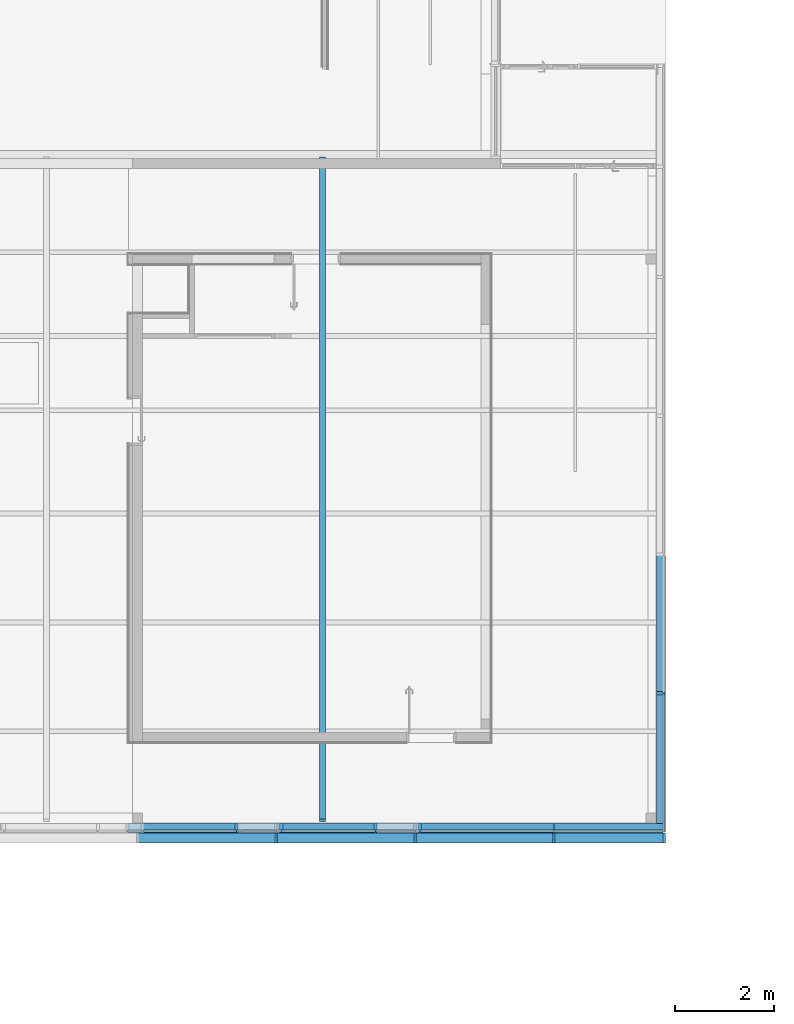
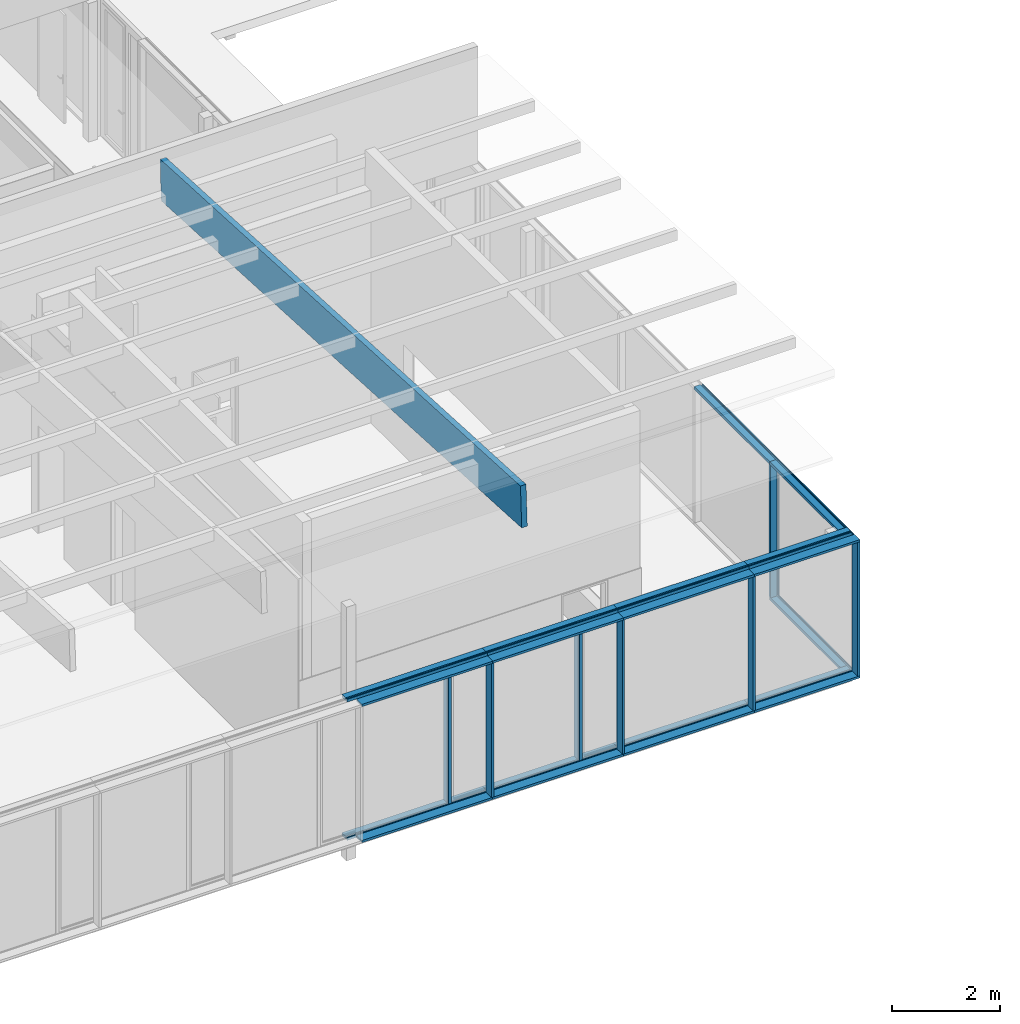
# One storey, part 8 of 240: 28 members, 1 beam, 3 elements without a shape of their own.
"""IFC2X3 building model written with IfcOpenShell, lengths in centimetres."""

from ifc_helpers import new_model, entity, si_unit, converted_unit, derived_unit, direction, frame, origin, origin_2d_with_axis, place, context, subcontext, project, spatial, polyline, rectangle, outline, extrude, source, transform, mapped, material, type_object, type_shapes, element, aggregate, save


model = new_model("IFC2X3")

# Units and contexts
model_context = context("Model", 3, precision=0.001, world=origin(), true_north=direction((6.12303176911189e-17, 1.0)))
body_context = subcontext(model_context, "Body", "Model", "MODEL_VIEW")
ifc_project = project(units=[si_unit("LENGTHUNIT", "METRE", prefix="CENTI"), si_unit("AREAUNIT", "SQUARE_METRE"), si_unit("VOLUMEUNIT", "CUBIC_METRE"), converted_unit("PLANEANGLEUNIT", "DEGREE", entity("IfcRatioMeasure", 0.0174532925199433), si_unit("PLANEANGLEUNIT", "RADIAN"), dimensions=[0, 0, 0, 0, 0, 0, 0]), si_unit("MASSUNIT", "GRAM", prefix="KILO"), derived_unit("MASSDENSITYUNIT", [(si_unit("MASSUNIT", "GRAM", prefix="KILO"), 1), (si_unit("LENGTHUNIT", "METRE"), -3)]), si_unit("TIMEUNIT", "SECOND"), si_unit("FREQUENCYUNIT", "HERTZ"), si_unit("THERMODYNAMICTEMPERATUREUNIT", "DEGREE_CELSIUS"), derived_unit("THERMALTRANSMITTANCEUNIT", [(si_unit("MASSUNIT", "GRAM", prefix="KILO"), 1), (si_unit("THERMODYNAMICTEMPERATUREUNIT", "KELVIN"), -1), (si_unit("TIMEUNIT", "SECOND"), -3)]), derived_unit("VOLUMETRICFLOWRATEUNIT", [(si_unit("LENGTHUNIT", "METRE"), 3), (si_unit("TIMEUNIT", "SECOND"), -1)]), si_unit("ELECTRICCURRENTUNIT", "AMPERE"), si_unit("ELECTRICVOLTAGEUNIT", "VOLT"), si_unit("POWERUNIT", "WATT"), si_unit("FORCEUNIT", "NEWTON", prefix="KILO"), si_unit("ILLUMINANCEUNIT", "LUX"), si_unit("LUMINOUSFLUXUNIT", "LUMEN"), si_unit("LUMINOUSINTENSITYUNIT", "CANDELA"), derived_unit("USERDEFINED", [(si_unit("MASSUNIT", "GRAM", prefix="KILO"), -1), (si_unit("LENGTHUNIT", "METRE"), -2), (si_unit("TIMEUNIT", "SECOND"), 3), (si_unit("LUMINOUSFLUXUNIT", "LUMEN"), 1)]), derived_unit("LINEARVELOCITYUNIT", [(si_unit("LENGTHUNIT", "METRE"), 1), (si_unit("TIMEUNIT", "SECOND"), -1)]), si_unit("PRESSUREUNIT", "PASCAL"), derived_unit("USERDEFINED", [(si_unit("LENGTHUNIT", "METRE"), -2), (si_unit("MASSUNIT", "GRAM", prefix="KILO"), 1), (si_unit("TIMEUNIT", "SECOND"), -2)])], contexts=[model_context])

# Site, building, storey
site_placement = place(None, frame((-2781.94577612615, 7442.24238424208, 0.0)))
site = spatial("IfcSite", under=ifc_project, at=site_placement, Name="Default", CompositionType="ELEMENT")
building_placement = place(site_placement, origin())
building = spatial("IfcBuilding", under=site, at=building_placement, CompositionType="ELEMENT")
storey_placement = place(building_placement, origin())
storey = spatial("IfcBuildingStorey", under=building, at=storey_placement, Name="N00 - COO", CompositionType="ELEMENT", Elevation=0.0)

# Curtain wall, members
curtain_wall_type_1 = type_object("IfcCurtainWallType", Name="Mur-rideau:07 - mur rideau trame 280 cm", PredefinedType="NOTDEFINED")
curtain_wall_1_placement = place(building_placement, origin())
curtain_wall_1 = element("IfcCurtainWall", 1, at=curtain_wall_1_placement, inside=storey, type_object=curtain_wall_type_1, Name="Mur-rideau:07 - mur rideau trame 280 cm", ObjectType="Mur-rideau:07 - mur rideau trame 280 cm")
ifc_material_1 = material(Name="Aluminium")
member_type_1 = type_object("IfcMemberType", Name="150 x 25mm Détails", PredefinedType="MEMBER")
shared_shape_1 = source(origin(), body_context, "Body", "SweptSolid", [
    extrude(outline(polyline([(-5.66666666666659, -3.25), (-3.66666666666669, -3.25), (-3.66666666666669, -0.868749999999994), (-0.166666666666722, -0.868749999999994), (-0.166666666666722, -3.25000000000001), (13.3333333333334, -3.24999999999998), (13.3333333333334, 3.25000000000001), (-0.166666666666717, 3.25000000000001), (-0.166666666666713, 0.868749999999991), (-3.66666666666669, 0.868749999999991), (-3.66666666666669, 3.24999999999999), (-5.66666666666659, 3.24999999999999), (-5.66666666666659, -3.25)])), frame((-3.24999999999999, -1.96666666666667, -299.5), z_axis=(0.0, 0.0, 1.0), x_axis=(0.0, -1.0, 0.0)), (0.0, 0.0, 1.0), 299.5),
])
type_shapes(member_type_1, [shared_shape_1])
member_1_placement = place(building_placement, frame((-9048.06674610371, -5562.80173441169, 306.0), z_axis=(0.0, 0.0, 1.0), x_axis=(-1.0, 0.0, 0.0)))
member_1 = element("IfcMember", 2, at=member_1_placement, type_object=member_type_1, material=ifc_material_1, Name="Meneau rectangulaire:150 x 25mm Détails", ObjectType="Meneau rectangulaire:150 x 25mm Détails", context=body_context, shape_type="MappedRepresentation", body=[
    mapped(shared_shape_1, transform((0.0, 0.0, 0.0), scale=1.0)),
])
member_type_2 = type_object("IfcMemberType", Name="150 x 25mm Détails", PredefinedType="MEMBER")
shared_shape_2 = source(origin(), body_context, "Body", "SweptSolid", [
    extrude(outline(polyline([(-5.6666666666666, -3.24999999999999), (-3.66666666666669, -3.24999999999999), (-3.66666666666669, -0.868749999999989), (-0.166666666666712, -0.868749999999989), (-0.166666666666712, -3.25000000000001), (13.3333333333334, -3.25000000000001), (13.3333333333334, 3.24999999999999), (-0.16666666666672, 3.24999999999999), (-0.16666666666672, 0.868749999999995), (-3.66666666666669, 0.868749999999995), (-3.66666666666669, 3.25), (-5.6666666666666, 3.25), (-5.6666666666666, -3.24999999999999)])), frame((-3.24999999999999, -1.96666666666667, -299.5), z_axis=(0.0, 0.0, 1.0), x_axis=(0.0, -1.0, 0.0)), (0.0, 0.0, 1.0), 299.5),
])
type_shapes(member_type_2, [shared_shape_2])
member_2_placement = place(building_placement, frame((-9131.56674610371, -5562.80173441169, 6.49999999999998), z_axis=(0.0, 0.0, -1.0), x_axis=(1.0, 0.0, 0.0)))
member_2 = element("IfcMember", 3, at=member_2_placement, type_object=member_type_2, material=ifc_material_1, Name="Meneau rectangulaire:150 x 25mm Détails", ObjectType="Meneau rectangulaire:150 x 25mm Détails", context=body_context, shape_type="MappedRepresentation", body=[
    mapped(shared_shape_2, transform((0.0, 0.0, 0.0), scale=1.0)),
])

curtain_wall_type_2 = type_object("IfcCurtainWallType", Name="Mur-rideau:Epines - 200x50mm", PredefinedType="NOTDEFINED")
curtain_wall_2_placement = place(storey_placement, origin())
curtain_wall_2 = element("IfcCurtainWall", 4, at=curtain_wall_2_placement, inside=storey, type_object=curtain_wall_type_2, Name="Mur-rideau:Epines - 200x50mm", ObjectType="Mur-rideau:Epines - 200x50mm")
member_type_3 = type_object("IfcMemberType", Name="200x50 mm", PredefinedType="MEMBER")
shared_shape_3 = source(origin(), body_context, "Body", "SweptSolid", [
    extrude(rectangle(XDim=20.0, YDim=5.0, at=origin_2d_with_axis()), frame((-2.5, 0.0, -280.0), z_axis=(0.0, 0.0, 1.0), x_axis=(0.0, -1.0, 0.0)), (0.0, 0.0, 1.0), 280.0),
])
type_shapes(member_type_3, [shared_shape_3])
member_3_placement = place(storey_placement, frame((-9614.81674610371, -5576.50173441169, 0.0), z_axis=(-1.0, 0.0, 0.0), x_axis=(0.0, 0.0, -1.0)))
member_3 = element("IfcMember", 5, at=member_3_placement, type_object=member_type_3, material=ifc_material_1, Name="Meneau rectangulaire:200x50 mm", ObjectType="Meneau rectangulaire:200x50 mm", context=body_context, shape_type="MappedRepresentation", body=[
    mapped(shared_shape_3, transform((0.0, 0.0, 0.0), scale=1.0)),
])
member_4_placement = place(storey_placement, frame((-9334.81674610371, -5576.50173441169, 0.0), z_axis=(-1.0, 0.0, 0.0), x_axis=(0.0, 0.0, -1.0)))
member_4 = element("IfcMember", 6, at=member_4_placement, type_object=member_type_3, material=ifc_material_1, Name="Meneau rectangulaire:200x50 mm", ObjectType="Meneau rectangulaire:200x50 mm", context=body_context, shape_type="MappedRepresentation", body=[
    mapped(shared_shape_3, transform((0.0, 0.0, 0.0), scale=1.0)),
])
member_5_placement = place(storey_placement, frame((-9054.81674610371, -5576.50173441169, 0.0), z_axis=(-1.0, 0.0, 0.0), x_axis=(0.0, 0.0, -1.0)))
member_5 = element("IfcMember", 7, at=member_5_placement, type_object=member_type_3, material=ifc_material_1, Name="Meneau rectangulaire:200x50 mm", ObjectType="Meneau rectangulaire:200x50 mm", context=body_context, shape_type="MappedRepresentation", body=[
    mapped(shared_shape_3, transform((0.0, 0.0, 0.0), scale=1.0)),
])
member_type_4 = type_object("IfcMemberType", Name="200x50 mm", PredefinedType="MEMBER")
shared_shape_4 = source(origin(), body_context, "Body", "SweptSolid", [
    extrude(rectangle(XDim=20.0, YDim=5.0, at=origin_2d_with_axis()), frame((0.0, 0.0, -303.0), z_axis=(0.0, 0.0, 1.0), x_axis=(0.0, -1.0, 0.0)), (0.0, 0.0, 1.0), 303.000000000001),
])
type_shapes(member_type_4, [shared_shape_4])
member_6_placement = place(storey_placement, frame((-8774.81674610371, -5576.50173441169, 5.0), z_axis=(0.0, 0.0, -1.0), x_axis=(1.0, 0.0, 0.0)))
member_6 = element("IfcMember", 8, at=member_6_placement, type_object=member_type_4, material=ifc_material_1, Name="Meneau rectangulaire:200x50 mm", ObjectType="Meneau rectangulaire:200x50 mm", context=body_context, shape_type="MappedRepresentation", body=[
    mapped(shared_shape_4, transform((0.0, 0.0, 0.0), scale=1.0)),
])
member_7_placement = place(storey_placement, frame((-9054.81674610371, -5576.50173441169, 5.0), z_axis=(0.0, 0.0, -1.0), x_axis=(1.0, 0.0, 0.0)))
member_7 = element("IfcMember", 9, at=member_7_placement, type_object=member_type_4, material=ifc_material_1, Name="Meneau rectangulaire:200x50 mm", ObjectType="Meneau rectangulaire:200x50 mm", context=body_context, shape_type="MappedRepresentation", body=[
    mapped(shared_shape_4, transform((0.0, 0.0, 0.0), scale=1.0)),
])
member_8_placement = place(storey_placement, frame((-9334.81674610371, -5576.50173441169, 5.0), z_axis=(0.0, 0.0, -1.0), x_axis=(1.0, 0.0, 0.0)))
member_8 = element("IfcMember", 10, at=member_8_placement, type_object=member_type_4, material=ifc_material_1, Name="Meneau rectangulaire:200x50 mm", ObjectType="Meneau rectangulaire:200x50 mm", context=body_context, shape_type="MappedRepresentation", body=[
    mapped(shared_shape_4, transform((0.0, 0.0, 0.0), scale=1.0)),
])

# Member
member_type_5 = type_object("IfcMemberType", Name="150 x 25mm Détails", PredefinedType="MEMBER")
shared_shape_5 = source(origin(), body_context, "Body", "SweptSolid", [
    extrude(outline(polyline([(-5.6666666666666, -3.24999999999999), (-3.66666666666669, -3.24999999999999), (-3.66666666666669, -0.868749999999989), (-0.166666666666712, -0.868749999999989), (-0.166666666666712, -3.25000000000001), (13.3333333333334, -3.25000000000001), (13.3333333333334, 3.24999999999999), (-0.16666666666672, 3.24999999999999), (-0.16666666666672, 0.868749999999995), (-3.66666666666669, 0.868749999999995), (-3.66666666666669, 3.25), (-5.6666666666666, 3.25), (-5.6666666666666, -3.24999999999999)])), frame((-3.24999999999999, -1.96666666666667, -280.0), z_axis=(0.0, 0.0, 1.0), x_axis=(0.0, -1.0, 0.0)), (0.0, 0.0, 1.0), 280.0),
])
type_shapes(member_type_5, [shared_shape_5])
member_9_placement = place(building_placement, frame((-9054.81674610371, -5562.80173441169, 319.50860145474), z_axis=(1.0, 0.0, 0.0), x_axis=(0.0, 0.0, 1.0)))
member_9 = element("IfcMember", 11, at=member_9_placement, type_object=member_type_5, material=ifc_material_1, Name="Meneau rectangulaire:150 x 25mm Détails", ObjectType="Meneau rectangulaire:150 x 25mm Détails", context=body_context, shape_type="MappedRepresentation", body=[
    mapped(shared_shape_5, transform((0.0, 0.0, 0.0), scale=1.0)),
])

# Curtain wall, member
curtain_wall_3_placement = place(building_placement, origin())
curtain_wall_3 = element("IfcCurtainWall", 12, at=curtain_wall_3_placement, inside=storey, type_object=curtain_wall_type_1, Name="Mur-rideau:07 - mur rideau trame 280 cm", ObjectType="Mur-rideau:07 - mur rideau trame 280 cm")
member_10_placement = place(building_placement, frame((-8552.68738089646, -5004.80173438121, 313.0), z_axis=(0.0, 1.0, 0.0), x_axis=(0.0, 0.0, 1.0)))
member_10 = element("IfcMember", 13, at=member_10_placement, type_object=member_type_5, material=ifc_material_1, Name="Meneau rectangulaire:150 x 25mm Détails", ObjectType="Meneau rectangulaire:150 x 25mm Détails", context=body_context, shape_type="MappedRepresentation", body=[
    mapped(shared_shape_5, transform((0.0, 0.0, 0.0), scale=1.0)),
])

# Member
member_type_6 = type_object("IfcMemberType", Name="200x50 mm", PredefinedType="MEMBER")
shared_shape_6 = source(origin(), body_context, "Body", "SweptSolid", [
    extrude(rectangle(XDim=20.0, YDim=5.0, at=origin_2d_with_axis()), frame((-2.5, 0.0, -225.829365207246), z_axis=(0.0, 0.0, 1.0), x_axis=(0.0, -1.0, 0.0)), (0.0, 0.0, 1.0), 225.829365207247),
])
type_shapes(member_type_6, [shared_shape_6])
member_11_placement = place(storey_placement, frame((-8548.98738089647, -5576.50173441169, 313.0), z_axis=(1.0, 0.0, 0.0), x_axis=(0.0, 0.0, 1.0)))
member_11 = element("IfcMember", 14, at=member_11_placement, type_object=member_type_6, material=ifc_material_1, Name="Meneau rectangulaire:200x50 mm", ObjectType="Meneau rectangulaire:200x50 mm", context=body_context, shape_type="MappedRepresentation", body=[
    mapped(shared_shape_6, transform((0.0, 0.0, 0.0), scale=1.0)),
])

member_type_7 = type_object("IfcMemberType", Name="200x50 mm", PredefinedType="MEMBER")
shared_shape_7 = source(origin(), body_context, "Body", "SweptSolid", [
    extrude(rectangle(XDim=20.0, YDim=5.0, at=origin_2d_with_axis()), frame((-2.5, 0.0, -280.0), z_axis=(0.0, 0.0, 1.0), x_axis=(0.0, -1.0, 0.0)), (0.0, 0.0, 1.0), 280.0),
])
type_shapes(member_type_7, [shared_shape_7])
member_12_placement = place(storey_placement, frame((-9334.81674610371, -5576.50173441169, 313.0), z_axis=(1.0, 0.0, 0.0), x_axis=(0.0, 0.0, 1.0)))
member_12 = element("IfcMember", 15, at=member_12_placement, type_object=member_type_7, material=ifc_material_1, Name="Meneau rectangulaire:200x50 mm", ObjectType="Meneau rectangulaire:200x50 mm", context=body_context, shape_type="MappedRepresentation", body=[
    mapped(shared_shape_7, transform((0.0, 0.0, 0.0), scale=1.0)),
])

member_13_placement = place(storey_placement, frame((-9054.81674610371, -5576.50173441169, 313.0), z_axis=(1.0, 0.0, 0.0), x_axis=(0.0, 0.0, 1.0)))
member_13 = element("IfcMember", 16, at=member_13_placement, type_object=member_type_7, material=ifc_material_1, Name="Meneau rectangulaire:200x50 mm", ObjectType="Meneau rectangulaire:200x50 mm", context=body_context, shape_type="MappedRepresentation", body=[
    mapped(shared_shape_7, transform((0.0, 0.0, 0.0), scale=1.0)),
])

member_14_placement = place(storey_placement, frame((-8774.81674610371, -5576.50173441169, 313.0), z_axis=(1.0, 0.0, 0.0), x_axis=(0.0, 0.0, 1.0)))
member_14 = element("IfcMember", 17, at=member_14_placement, type_object=member_type_7, material=ifc_material_1, Name="Meneau rectangulaire:200x50 mm", ObjectType="Meneau rectangulaire:200x50 mm", context=body_context, shape_type="MappedRepresentation", body=[
    mapped(shared_shape_7, transform((0.0, 0.0, 0.0), scale=1.0)),
])

member_type_8 = type_object("IfcMemberType", Name="200x50 mm", PredefinedType="MEMBER")
shared_shape_8 = source(origin(), body_context, "Body", "SweptSolid", [
    extrude(rectangle(XDim=20.0, YDim=5.0, at=origin_2d_with_axis()), frame((-2.5, 0.0, -225.829365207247), z_axis=(0.0, 0.0, 1.0), x_axis=(0.0, -1.0, 0.0)), (0.0, 0.0, 1.0), 225.829365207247),
])
type_shapes(member_type_8, [shared_shape_8])
member_15_placement = place(storey_placement, frame((-8774.81674610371, -5576.50173441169, 0.0), z_axis=(-1.0, 0.0, 0.0), x_axis=(0.0, 0.0, -1.0)))
member_15 = element("IfcMember", 18, at=member_15_placement, type_object=member_type_8, material=ifc_material_1, Name="Meneau rectangulaire:200x50 mm", ObjectType="Meneau rectangulaire:200x50 mm", context=body_context, shape_type="MappedRepresentation", body=[
    mapped(shared_shape_8, transform((0.0, 0.0, 0.0), scale=1.0)),
])

member_type_9 = type_object("IfcMemberType", Name="200x50 mm", PredefinedType="MEMBER")
shared_shape_9 = source(origin(), body_context, "Body", "SweptSolid", [
    extrude(rectangle(XDim=20.0, YDim=5.0, at=origin_2d_with_axis()), frame((-2.5, 0.0, -303.0), z_axis=(0.0, 0.0, 1.0), x_axis=(0.0, -1.0, 0.0)), (0.0, 0.0, 1.0), 303.000000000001),
])
type_shapes(member_type_9, [shared_shape_9])
member_16_placement = place(storey_placement, frame((-8548.98738089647, -5576.50173441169, 5.0), z_axis=(0.0, 0.0, -1.0), x_axis=(1.0, 0.0, 0.0)))
member_16 = element("IfcMember", 19, at=member_16_placement, type_object=member_type_9, material=ifc_material_1, Name="Meneau rectangulaire:200x50 mm", ObjectType="Meneau rectangulaire:200x50 mm", context=body_context, shape_type="MappedRepresentation", body=[
    mapped(shared_shape_9, transform((0.0, 0.0, 0.0), scale=1.0)),
])

aggregate(curtain_wall_2, [member_11, member_3, member_12, member_4, member_13, member_5, member_14, member_15, member_6, member_7, member_8, member_16])

member_type_10 = type_object("IfcMemberType", Name="150 x 25mm Détails", PredefinedType="MEMBER")
shared_shape_10 = source(origin(), body_context, "Body", "SweptSolid", [
    extrude(outline(polyline([(-5.66666666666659, -3.25), (-3.66666666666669, -3.25), (-3.66666666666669, -0.868749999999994), (-0.166666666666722, -0.868749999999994), (-0.166666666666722, -3.25000000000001), (13.3333333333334, -3.24999999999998), (13.3333333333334, 3.25000000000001), (-0.166666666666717, 3.25000000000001), (-0.166666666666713, 0.868749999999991), (-3.66666666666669, 0.868749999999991), (-3.66666666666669, 3.24999999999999), (-5.66666666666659, 3.24999999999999), (-5.66666666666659, -3.25)])), frame((-3.24999999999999, -1.96666666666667, -280.0), z_axis=(0.0, 0.0, 1.0), x_axis=(0.0, -1.0, 0.0)), (0.0, 0.0, 1.0), 280.0),
])
type_shapes(member_type_10, [shared_shape_10])
member_17_placement = place(building_placement, frame((-9334.81674610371, -5562.80173441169, 0.0), z_axis=(-1.0, 0.0, 0.0), x_axis=(0.0, 0.0, -1.0)))
member_17 = element("IfcMember", 20, at=member_17_placement, type_object=member_type_10, material=ifc_material_1, Name="Meneau rectangulaire:150 x 25mm Détails", ObjectType="Meneau rectangulaire:150 x 25mm Détails", context=body_context, shape_type="MappedRepresentation", body=[
    mapped(shared_shape_10, transform((0.0, 0.0, 0.0), scale=1.0)),
])

member_18_placement = place(building_placement, frame((-9054.81674610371, -5562.80173441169, 0.0), z_axis=(-1.0, 0.0, 0.0), x_axis=(0.0, 0.0, -1.0)))
member_18 = element("IfcMember", 21, at=member_18_placement, type_object=member_type_10, material=ifc_material_1, Name="Meneau rectangulaire:150 x 25mm Détails", ObjectType="Meneau rectangulaire:150 x 25mm Détails", context=body_context, shape_type="MappedRepresentation", body=[
    mapped(shared_shape_10, transform((0.0, 0.0, 0.0), scale=1.0)),
])

member_type_11 = type_object("IfcMemberType", Name="150 x 25mm Détails", PredefinedType="MEMBER")
shared_shape_11 = source(origin(), body_context, "Body", "SweptSolid", [
    extrude(outline(polyline([(-5.66666666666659, -3.25), (-3.66666666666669, -3.25), (-3.66666666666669, -0.868749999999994), (-0.166666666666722, -0.868749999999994), (-0.166666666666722, -3.25000000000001), (13.3333333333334, -3.24999999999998), (13.3333333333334, 3.25000000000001), (-0.166666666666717, 3.25000000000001), (-0.166666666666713, 0.868749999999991), (-3.66666666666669, 0.868749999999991), (-3.66666666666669, 3.24999999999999), (-5.66666666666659, 3.24999999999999), (-5.66666666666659, -3.25)])), frame((-3.24999999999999, -1.96666666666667, -300.0), z_axis=(0.0, 0.0, 1.0), x_axis=(0.0, -1.0, 0.0)), (0.0, 0.0, 1.0), 299.999999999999),
])
type_shapes(member_type_11, [shared_shape_11])
member_19_placement = place(building_placement, frame((-9634.81674610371, -5562.80173441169, 0.0), z_axis=(-1.0, 0.0, 0.0), x_axis=(0.0, 0.0, -1.0)))
member_19 = element("IfcMember", 22, at=member_19_placement, type_object=member_type_11, material=ifc_material_1, Name="Meneau rectangulaire:150 x 25mm Détails", ObjectType="Meneau rectangulaire:150 x 25mm Détails", context=body_context, shape_type="MappedRepresentation", body=[
    mapped(shared_shape_11, transform((0.0, 0.0, 0.0), scale=1.0)),
])

member_type_12 = type_object("IfcMemberType", Name="150 x 25mm Détails", PredefinedType="MEMBER")
shared_shape_12 = source(origin(), body_context, "Body", "SweptSolid", [
    extrude(outline(polyline([(-5.66666666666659, -3.25), (-3.66666666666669, -3.25), (-3.66666666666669, -0.868749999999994), (-0.166666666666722, -0.868749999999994), (-0.166666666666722, -3.25000000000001), (13.3333333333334, -3.24999999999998), (13.3333333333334, 3.25000000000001), (-0.166666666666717, 3.25000000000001), (-0.166666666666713, 0.868749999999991), (-3.66666666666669, 0.868749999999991), (-3.66666666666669, 3.24999999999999), (-5.66666666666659, 3.24999999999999), (-5.66666666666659, -3.25)])), frame((-3.24999999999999, -1.96666666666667, -220.129365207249), z_axis=(0.0, 0.0, 1.0), x_axis=(0.0, -1.0, 0.0)), (0.0, 0.0, 1.0), 220.12936520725),
])
type_shapes(member_type_12, [shared_shape_12])
member_20_placement = place(building_placement, frame((-8774.81674610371, -5562.80173441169, 0.0), z_axis=(-1.0, 0.0, 0.0), x_axis=(0.0, 0.0, -1.0)))
member_20 = element("IfcMember", 23, at=member_20_placement, type_object=member_type_12, material=ifc_material_1, Name="Meneau rectangulaire:150 x 25mm Détails", ObjectType="Meneau rectangulaire:150 x 25mm Détails", context=body_context, shape_type="MappedRepresentation", body=[
    mapped(shared_shape_12, transform((0.0, 0.0, 0.0), scale=1.0)),
])

member_type_13 = type_object("IfcMemberType", Name="150 x 25mm Détails", PredefinedType="MEMBER")
shared_shape_13 = source(origin(), body_context, "Body", "SweptSolid", [
    extrude(outline(polyline([(-5.6666666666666, -3.25), (-3.66666666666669, -3.25), (-3.66666666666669, -0.868749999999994), (-0.166666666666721, -0.868749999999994), (-0.166666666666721, -3.25000000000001), (13.3333333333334, -3.24999999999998), (13.3333333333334, 3.25000000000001), (-0.166666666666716, 3.25000000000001), (-0.166666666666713, 0.868749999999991), (-3.66666666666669, 0.868749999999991), (-3.66666666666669, 3.24999999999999), (-5.6666666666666, 3.24999999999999), (-5.6666666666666, -3.25)])), frame((-3.24999999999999, -1.96666666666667, -299.5), z_axis=(0.0, 0.0, 1.0), x_axis=(0.0, -1.0, 0.0)), (0.0, 0.0, 1.0), 299.5),
])
type_shapes(member_type_13, [shared_shape_13])
member_21_placement = place(building_placement, frame((-9328.06674610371, -5562.80173441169, 306.0), z_axis=(0.0, 0.0, 1.0), x_axis=(-1.0, 0.0, 0.0)))
member_21 = element("IfcMember", 24, at=member_21_placement, type_object=member_type_13, material=ifc_material_1, Name="Meneau rectangulaire:150 x 25mm Détails", ObjectType="Meneau rectangulaire:150 x 25mm Détails", context=body_context, shape_type="MappedRepresentation", body=[
    mapped(shared_shape_13, transform((0.0, 0.0, 0.0), scale=1.0)),
])

member_type_14 = type_object("IfcMemberType", Name="150 x 25mm Détails", PredefinedType="MEMBER")
shared_shape_14 = source(origin(), body_context, "Body", "SweptSolid", [
    extrude(outline(polyline([(-5.66666666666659, -3.24999999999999), (-3.66666666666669, -3.24999999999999), (-3.66666666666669, -0.868749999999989), (-0.166666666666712, -0.868749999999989), (-0.166666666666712, -3.25000000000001), (13.3333333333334, -3.25000000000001), (13.3333333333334, 3.24999999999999), (-0.166666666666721, 3.24999999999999), (-0.166666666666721, 0.868749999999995), (-3.66666666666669, 0.868749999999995), (-3.66666666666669, 3.25), (-5.66666666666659, 3.25), (-5.66666666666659, -3.24999999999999)])), frame((-3.24999999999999, -1.96666666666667, -299.5), z_axis=(0.0, 0.0, 1.0), x_axis=(0.0, -1.0, 0.0)), (0.0, 0.0, 1.0), 299.5),
])
type_shapes(member_type_14, [shared_shape_14])
member_22_placement = place(building_placement, frame((-9411.56674610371, -5562.80173441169, 6.49999999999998), z_axis=(0.0, 0.0, -1.0), x_axis=(1.0, 0.0, 0.0)))
member_22 = element("IfcMember", 25, at=member_22_placement, type_object=member_type_14, material=ifc_material_1, Name="Meneau rectangulaire:150 x 25mm Détails", ObjectType="Meneau rectangulaire:150 x 25mm Détails", context=body_context, shape_type="MappedRepresentation", body=[
    mapped(shared_shape_14, transform((0.0, 0.0, 0.0), scale=1.0)),
])

member_type_15 = type_object("IfcMemberType", Name="150 x 25mm Détails", PredefinedType="MEMBER")
shared_shape_15 = source(origin(), body_context, "Body", "SweptSolid", [
    extrude(outline(polyline([(-5.6666666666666, -3.24999999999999), (-3.66666666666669, -3.24999999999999), (-3.66666666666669, -0.868749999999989), (-0.166666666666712, -0.868749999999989), (-0.166666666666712, -3.25000000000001), (13.3333333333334, -3.25000000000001), (13.3333333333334, 3.24999999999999), (-0.16666666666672, 3.24999999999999), (-0.16666666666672, 0.868749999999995), (-3.66666666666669, 0.868749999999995), (-3.66666666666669, 3.25), (-5.6666666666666, 3.25), (-5.6666666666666, -3.24999999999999)])), frame((-3.24999999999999, -1.96666666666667, -220.12936520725), z_axis=(0.0, 0.0, 1.0), x_axis=(0.0, -1.0, 0.0)), (0.0, 0.0, 1.0), 220.12936520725),
])
type_shapes(member_type_15, [shared_shape_15])
member_23_placement = place(building_placement, frame((-8554.68738089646, -5562.80173441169, 319.50860145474), z_axis=(1.0, 0.0, 0.0), x_axis=(0.0, 0.0, 1.0)))
member_23 = element("IfcMember", 26, at=member_23_placement, type_object=member_type_15, material=ifc_material_1, Name="Meneau rectangulaire:150 x 25mm Détails", ObjectType="Meneau rectangulaire:150 x 25mm Détails", context=body_context, shape_type="MappedRepresentation", body=[
    mapped(shared_shape_15, transform((0.0, 0.0, 0.0), scale=1.0)),
])

member_type_16 = type_object("IfcMemberType", Name="150 x 25mm Détails", PredefinedType="MEMBER")
shared_shape_16 = source(origin(), body_context, "Body", "SweptSolid", [
    extrude(outline(polyline([(-5.6666666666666, -3.24999999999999), (-3.66666666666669, -3.24999999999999), (-3.66666666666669, -0.868749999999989), (-0.166666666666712, -0.868749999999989), (-0.166666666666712, -3.25000000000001), (13.3333333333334, -3.25000000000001), (13.3333333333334, 3.24999999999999), (-0.16666666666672, 3.24999999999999), (-0.16666666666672, 0.868749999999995), (-3.66666666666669, 0.868749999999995), (-3.66666666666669, 3.25), (-5.6666666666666, 3.25), (-5.6666666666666, -3.24999999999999)])), frame((-3.24999999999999, -1.96666666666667, -300.0), z_axis=(0.0, 0.0, 1.0), x_axis=(0.0, -1.0, 0.0)), (0.0, 0.0, 1.0), 299.999999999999),
])
type_shapes(member_type_16, [shared_shape_16])
member_24_placement = place(building_placement, frame((-9334.81674610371, -5562.80173441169, 319.50860145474), z_axis=(1.0, 0.0, 0.0), x_axis=(0.0, 0.0, 1.0)))
member_24 = element("IfcMember", 27, at=member_24_placement, type_object=member_type_16, material=ifc_material_1, Name="Meneau rectangulaire:150 x 25mm Détails", ObjectType="Meneau rectangulaire:150 x 25mm Détails", context=body_context, shape_type="MappedRepresentation", body=[
    mapped(shared_shape_16, transform((0.0, 0.0, 0.0), scale=1.0)),
])

member_type_17 = type_object("IfcMemberType", Name="150 x 25mm Détails", PredefinedType="MEMBER")
shared_shape_17 = source(origin(), body_context, "Body", "SweptSolid", [
    extrude(outline(polyline([(-5.6666666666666, -3.24999999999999), (-3.66666666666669, -3.24999999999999), (-3.66666666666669, -0.868749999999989), (-0.166666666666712, -0.868749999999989), (-0.166666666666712, -3.25000000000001), (13.3333333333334, -3.25000000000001), (13.3333333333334, 3.24999999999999), (-0.16666666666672, 3.24999999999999), (-0.16666666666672, 0.868749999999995), (-3.66666666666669, 0.868749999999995), (-3.66666666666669, 3.25), (-5.6666666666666, 3.25), (-5.6666666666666, -3.24999999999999)])), frame((-3.24999999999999, -1.96666666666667, -280.0), z_axis=(0.0, 0.0, 1.0), x_axis=(0.0, -1.0, 0.0)), (0.0, 0.0, 1.0), 280.0),
])
type_shapes(member_type_17, [shared_shape_17])
member_25_placement = place(building_placement, frame((-8774.81674610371, -5562.80173441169, 319.50860145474), z_axis=(1.0, 0.0, 0.0), x_axis=(0.0, 0.0, 1.0)))
member_25 = element("IfcMember", 28, at=member_25_placement, type_object=member_type_17, material=ifc_material_1, Name="Meneau rectangulaire:150 x 25mm Détails", ObjectType="Meneau rectangulaire:150 x 25mm Détails", context=body_context, shape_type="MappedRepresentation", body=[
    mapped(shared_shape_17, transform((0.0, 0.0, 0.0), scale=1.0)),
])

aggregate(curtain_wall_1, [member_19, member_17, member_18, member_20, member_21, member_22, member_1, member_2, member_23, member_24, member_9, member_25])

member_type_18 = type_object("IfcMemberType", Name="150 x 25mm Détails", PredefinedType="MEMBER")
shared_shape_18 = source(origin(), body_context, "Body", "SweptSolid", [
    extrude(outline(polyline([(-5.6666666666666, -3.24999999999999), (-3.66666666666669, -3.24999999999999), (-3.66666666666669, -0.868749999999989), (-0.166666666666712, -0.868749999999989), (-0.166666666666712, -3.25000000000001), (13.3333333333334, -3.25000000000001), (13.3333333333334, 3.24999999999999), (-0.16666666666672, 3.24999999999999), (-0.16666666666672, 0.868749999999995), (-3.66666666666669, 0.868749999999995), (-3.66666666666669, 3.25), (-5.6666666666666, 3.25), (-5.6666666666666, -3.24999999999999)])), frame((-3.24999999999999, -1.96666666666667, -280.0), z_axis=(0.0, 0.0, 1.0), x_axis=(0.0, -1.0, 0.0)), (0.0, 0.0, 1.0), 280.00000003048),
])
type_shapes(member_type_18, [shared_shape_18])
member_26_placement = place(building_placement, frame((-8552.68738089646, -5284.80173438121, 313.0), z_axis=(0.0, 1.0, 0.0), x_axis=(0.0, 0.0, 1.0)))
member_26 = element("IfcMember", 29, at=member_26_placement, type_object=member_type_18, material=ifc_material_1, Name="Meneau rectangulaire:150 x 25mm Détails", ObjectType="Meneau rectangulaire:150 x 25mm Détails", context=body_context, shape_type="MappedRepresentation", body=[
    mapped(shared_shape_18, transform((0.0, 0.0, 0.0), scale=1.0)),
])

member_type_19 = type_object("IfcMemberType", Name="150 x 25mm Détails", PredefinedType="MEMBER")
shared_shape_19 = source(origin(), body_context, "Body", "SweptSolid", [
    extrude(outline(polyline([(-5.66666666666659, -3.24999999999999), (-3.66666666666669, -3.24999999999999), (-3.66666666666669, -0.86874999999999), (-0.166666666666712, -0.86874999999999), (-0.166666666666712, -3.25000000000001), (13.3333333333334, -3.25000000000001), (13.3333333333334, 3.24999999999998), (-0.166666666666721, 3.24999999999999), (-0.166666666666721, 0.868749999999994), (-3.66666666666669, 0.868749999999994), (-3.66666666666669, 3.25), (-5.66666666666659, 3.25), (-5.66666666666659, -3.24999999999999)])), frame((0.0, -1.96666666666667, -300.0), z_axis=(0.0, 0.0, 1.0), x_axis=(0.0, -1.0, 0.0)), (0.0, 0.0, 1.0), 300.0),
])
type_shapes(member_type_19, [shared_shape_19])
member_27_placement = place(building_placement, frame((-8552.68738089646, -5284.80173438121, 6.49999999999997), z_axis=(0.0, 0.0, -1.0), x_axis=(0.0, 1.0, 0.0)))
member_27 = element("IfcMember", 30, at=member_27_placement, type_object=member_type_19, material=ifc_material_1, Name="Meneau rectangulaire:150 x 25mm Détails", ObjectType="Meneau rectangulaire:150 x 25mm Détails", context=body_context, shape_type="MappedRepresentation", body=[
    mapped(shared_shape_19, transform((0.0, 0.0, 0.0), scale=1.0)),
])

member_type_20 = type_object("IfcMemberType", Name="150 x 25mm Détails", PredefinedType="MEMBER")
shared_shape_20 = source(origin(), body_context, "Body", "SweptSolid", [
    extrude(outline(polyline([(-5.66666666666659, -3.25), (-3.66666666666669, -3.25), (-3.66666666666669, -0.868749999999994), (-0.166666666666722, -0.868749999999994), (-0.166666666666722, -3.25000000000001), (13.3333333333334, -3.24999999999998), (13.3333333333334, 3.25000000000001), (-0.166666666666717, 3.25000000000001), (-0.166666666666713, 0.868749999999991), (-3.66666666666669, 0.868749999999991), (-3.66666666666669, 3.24999999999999), (-5.66666666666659, 3.24999999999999), (-5.66666666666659, -3.25)])), frame((-3.24999999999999, -1.96666666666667, -280.0), z_axis=(0.0, 0.0, 1.0), x_axis=(0.0, -1.0, 0.0)), (0.0, 0.0, 1.0), 280.00000003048),
])
type_shapes(member_type_20, [shared_shape_20])
member_28_placement = place(building_placement, frame((-8552.68738089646, -5564.80173441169, 0.0), z_axis=(0.0, -1.0, 0.0), x_axis=(0.0, 0.0, -1.0)))
member_28 = element("IfcMember", 31, at=member_28_placement, type_object=member_type_20, material=ifc_material_1, Name="Meneau rectangulaire:150 x 25mm Détails", ObjectType="Meneau rectangulaire:150 x 25mm Détails", context=body_context, shape_type="MappedRepresentation", body=[
    mapped(shared_shape_20, transform((0.0, 0.0, 0.0), scale=1.0)),
])

aggregate(curtain_wall_3, [member_26, member_10, member_27, member_28])

# Beam
ifc_material_2 = material(Name="Bois - Bois de construction de dimensions courantes")
beam_type = type_object("IfcBeamType", Name="SR-12x92", PredefinedType="BEAM")
beam_placement = place(storey_placement, frame((-9241.932180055, -5521.92311834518, 648.734886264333), z_axis=(0.0, 0.0523359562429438, 0.998629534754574), x_axis=(0.0, 0.998629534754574, -0.0523359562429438)))
element("IfcBeam", 32, at=beam_placement, inside=storey, type_object=beam_type, material=ifc_material_2, Name="Poutre - Bois de construction de dimensions courantes:SR-12x92", ObjectType="Poutre - Bois de construction de dimensions courantes:SR-12x92", context=body_context, shape_type="SweptSolid", body=[
    extrude(rectangle(XDim=92.0, YDim=12.0000000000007, at=origin_2d_with_axis()), frame((-16.8622315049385, 0.0, -46.0), z_axis=(1.0, 0.0, 0.0), x_axis=(0.0, 0.0, -1.0)), (0.0, 0.0, 1.0), 1337.86296199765),
])

save(model, "model.ifc")
